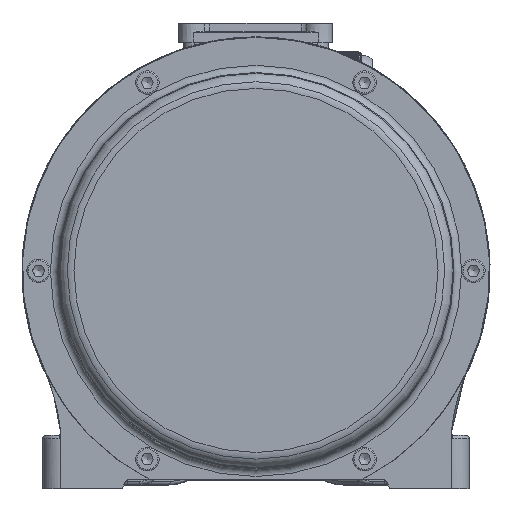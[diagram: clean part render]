
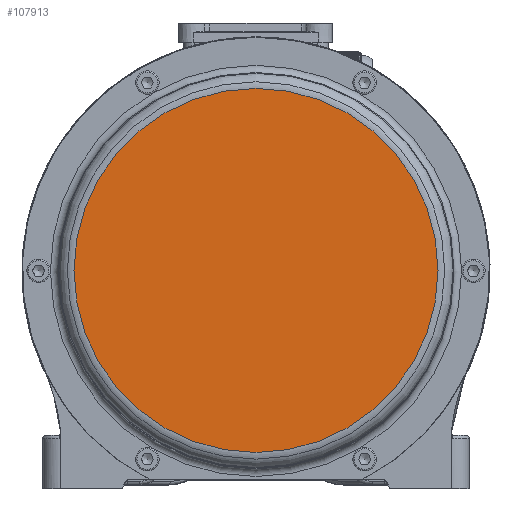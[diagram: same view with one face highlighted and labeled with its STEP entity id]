
A CAD part, top view. The second image highlights one B-rep face of the part: STEP entity #107913.
In plain terms, the highlighted planar face has unit normal (0, 0, 1).
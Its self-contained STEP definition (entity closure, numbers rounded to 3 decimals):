
#9898=PLANE('',#113579);
#13887=FACE_OUTER_BOUND('',#20145,.T.);
#20145=EDGE_LOOP('',(#86320));
#39934=CIRCLE('',#113580,100.5);
#48251=VERTEX_POINT('',#176301);
#61348=EDGE_CURVE('',#48251,#48251,#39934,.T.);
#86320=ORIENTED_EDGE('',*,*,#61348,.F.);
#107913=ADVANCED_FACE('',(#13887),#9898,.T.);
#113579=AXIS2_PLACEMENT_3D('',#176300,#130704,#130705);
#113580=AXIS2_PLACEMENT_3D('',#176302,#130706,#130707);
#130704=DIRECTION('center_axis',(0.,0.,
1.));
#130705=DIRECTION('ref_axis',(1.,0.,0.));
#130706=DIRECTION('center_axis',(0.,0.,
-1.));
#130707=DIRECTION('ref_axis',(0.,1.,0.));
#176300=CARTESIAN_POINT('Origin',(5.746,51.136,263.8));
#176301=CARTESIAN_POINT('',(106.246,0.886,263.8));
#176302=CARTESIAN_POINT('Origin',(5.746,0.886,263.8));
